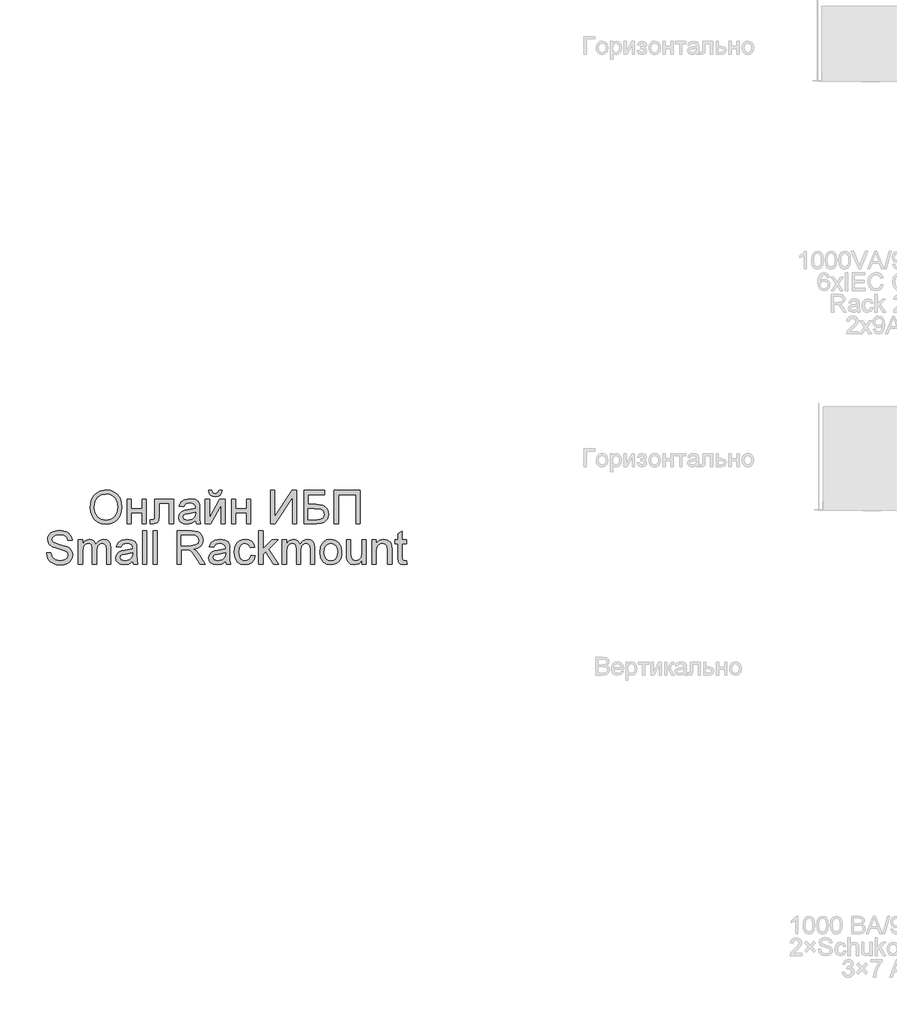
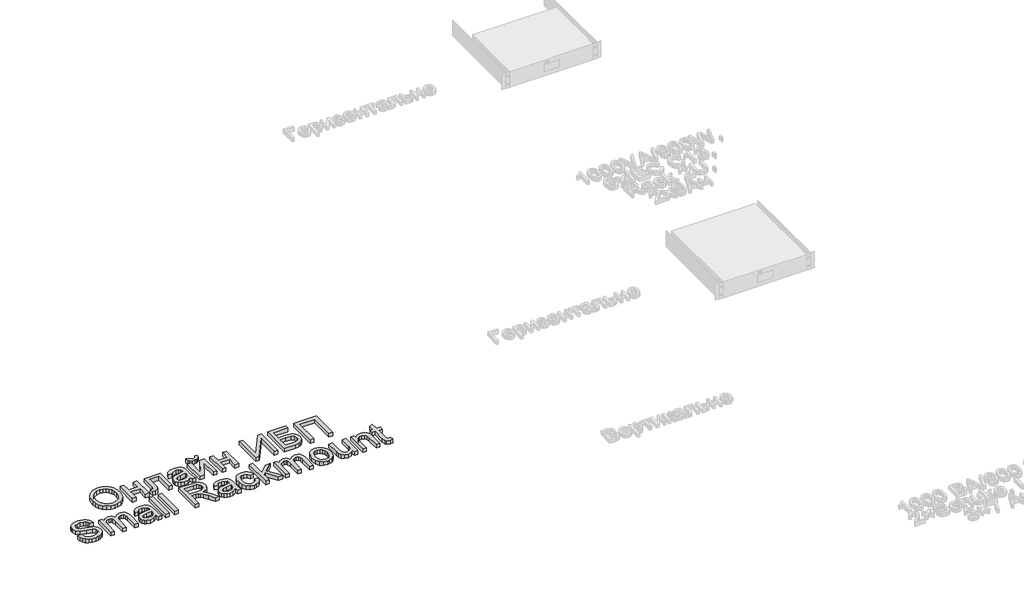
# One storey, part 63 of 74: 1 proxy.
"""IFC4 building model written with IfcOpenShell, lengths in millimetres."""

from ifc_helpers import new_model, si_unit, origin, origin_with_axes, place, context, project, spatial, polyline, outline, extrude, element, save

model = new_model("IFC4")

# Units and contexts
model_context = context("Model", 3, world=origin())
ifc_project = project(units=[si_unit("LENGTHUNIT", "METRE", prefix="MILLI")], contexts=[model_context])

# Site, building, storey
site = spatial("IfcSite", under=ifc_project)
building = spatial("IfcBuilding", under=site)
storey = spatial("IfcBuildingStorey", under=building, Name="Этаж 01", Elevation=0.0)

# Proxy
placement = place(None, origin())
element("IfcBuildingElementProxy", 1, Name="150 мм Arial", ObjectType="150 мм Arial", at=placement, inside=storey, context=model_context, shape_type="SweptSolid", body=[
    extrude(outline(polyline([(-2176.9010237, 1186.0052274), (-2171.8794345, 1219.3261391), (-2165.6024479, 1232.9446707), (-2156.8146668, 1244.5352528), (-2133.812845, 1260.4001639), (-2104.9800937, 1265.6884676), (-2085.2156335, 1263.2052641), (-2067.4929184, 1255.7556537), (-2052.7776386, 1243.8638682), (-2042.0354843, 1228.0541394), (-2035.4687907, 1209.0898226), (-2033.2798928, 1187.7342728), (-2035.5837538, 1166.0936144), (-2042.4953368, 1146.8625831), (-2053.6329642, 1131.0252632), (-2068.6149584, 1119.5657391), (-2086.1859222, 1112.6127694), (-2105.0904583, 1110.2951128), (-2125.1584211, 1112.8564912), (-2142.9823038, 1120.5406264), (-2157.6607954, 1132.653141), (-2168.292585, 1148.499658), (-2174.7489141, 1166.7328094), (-2176.9010237, 1186.0052274)]), holes=[polyline([(-2158.0654656, 1185.8212864), (-2154.2992736, 1162.2492476), (-2143.0006979, 1144.2874091), (-2126.0183453, 1132.9198555), (-2105.2008229, 1129.1306709), (-2084.0797978, 1132.9566437), (-2067.0698541, 1144.4345619), (-2055.8540517, 1162.9482233), (-2052.115451, 1187.8814256), (-2053.7157376, 1204.555677), (-2058.5165977, 1218.9674542), (-2066.3938709, 1230.7534736), (-2077.2233971, 1239.5504518), (-2090.2878065, 1245.027295), (-2104.8697291, 1246.8529094), (-2125.13083, 1243.3350378), (-2142.3569044, 1232.7814231), (-2154.1383253, 1214.0056458), (-2158.0654656, 1185.8212864)])]), origin_with_axes(), (0.0, 0.0, 1.0), 20.0),
    extrude(outline(polyline([(-2009.7354451, 1223.3084617), (-1990.899887, 1223.3084617), (-1990.899887, 1180.9284559), (-1941.4565468, 1180.9284559), (-1941.4565468, 1223.3084617), (-1922.6209887, 1223.3084617), (-1922.6209887, 1112.6495576), (-1941.4565468, 1112.6495576), (-1941.4565468, 1162.0928977), (-1990.899887, 1162.0928977), (-1990.899887, 1112.6495576), (-2009.7354451, 1112.6495576), (-2009.7354451, 1223.3084617)])), origin_with_axes(), (0.0, 0.0, 1.0), 20.0),
    extrude(outline(polyline([(-1884.9498724, 1223.3084617), (-1800.1898607, 1223.3084617), (-1800.1898607, 1112.7599222), (-1819.0254188, 1112.7599222), (-1819.0254188, 1204.4729036), (-1866.1143142, 1204.4729036), (-1866.1143142, 1151.6818372), (-1867.3835071, 1127.3280492), (-1874.3548709, 1117.0457474), (-1890.8359843, 1112.6495576), (-1906.1398753, 1113.6060507), (-1906.1398753, 1131.4851157), (-1897.7153776, 1131.4851157), (-1889.1989094, 1132.643944), (-1885.7960009, 1136.3227639), (-1884.9498724, 1152.748695), (-1884.9498724, 1223.3084617)])), origin_with_axes(), (0.0, 0.0, 1.0), 20.0),
    extrude(outline(polyline([(-1701.3031804, 1126.7762262), (-1719.5685214, 1114.0107209), (-1739.7468489, 1110.2951128), (-1755.4875997, 1112.5299959), (-1767.0988752, 1119.2346453), (-1774.2587785, 1129.4157795), (-1776.645413, 1142.0801172), (-1773.0401694, 1156.979338), (-1763.567208, 1167.7950686), (-1750.3786385, 1173.9754862), (-1734.0814661, 1176.8081775), (-1701.413545, 1183.2829006), (-1701.3031804, 1187.4767554), (-1702.5999644, 1195.882859), (-1706.4903165, 1201.3826948), (-1715.1907257, 1205.4661849), (-1727.3124374, 1206.8273483), (-1746.3687248, 1203.2037107), (-1755.45541, 1190.3462349), (-1774.2909682, 1192.7006797), (-1766.142382, 1211.0947795), (-1749.734845, 1221.8737219), (-1724.8844163, 1225.6629065), (-1702.0573385, 1222.3151803), (-1689.1630745, 1213.9090767), (-1683.3873272, 1201.1251774), (-1682.4676222, 1184.644064), (-1682.4676222, 1161.2099809), (-1681.511129, 1128.4868775), (-1677.7587327, 1112.6495576), (-1696.5942908, 1112.6495576), (-1701.3031804, 1126.7762262)]), holes=[polyline([(-1701.3031804, 1164.4473425), (-1731.6902332, 1158.6715952), (-1747.895435, 1155.6181746), (-1755.2346809, 1150.6517677), (-1757.8098548, 1143.4044924), (-1752.1996544, 1133.2141611), (-1735.7369351, 1129.1306709), (-1716.6806478, 1133.6372254), (-1704.3933891, 1144.5449265), (-1701.413545, 1159.1130535), (-1701.3031804, 1164.4473425)])]), origin_with_axes(), (0.0, 0.0, 1.0), 20.0),
    extrude(outline(polyline([(-1656.5687297, 1223.3084617), (-1637.7331716, 1223.3084617), (-1637.7331716, 1138.916332), (-1591.4536166, 1223.3084617), (-1567.0998285, 1223.3084617), (-1567.0998285, 1112.6495576), (-1585.9353867, 1112.6495576), (-1585.9353867, 1196.5266525), (-1631.9206361, 1112.6495576), (-1656.5687297, 1112.6495576), (-1656.5687297, 1223.3084617)])), origin_with_axes(), (0.0, 0.0, 1.0), 20.0),
    extrude(outline(polyline([(-1595.3531657, 1263.3340228), (-1581.2264971, 1263.3340228), (-1584.2661221, 1251.2720919), (-1590.3683647, 1242.3831432), (-1599.2573134, 1236.9063), (-1610.6570567, 1235.0806856), (-1623.0270888, 1236.8925044), (-1632.6196119, 1242.3279609), (-1639.1771084, 1251.203114), (-1642.4420611, 1263.3340228), (-1628.3153925, 1263.3340228), (-1623.0178918, 1252.7206272), (-1612.3493139, 1249.2073542), (-1600.6506665, 1252.6102626), (-1595.3531657, 1263.3340228)])), origin_with_axes(), (0.0, 0.0, 1.0), 20.0),
    extrude(outline(polyline([(-1538.8464913, 1223.3084617), (-1520.0109331, 1223.3084617), (-1520.0109331, 1180.9284559), (-1470.567593, 1180.9284559), (-1470.567593, 1223.3084617), (-1451.7320348, 1223.3084617), (-1451.7320348, 1112.6495576), (-1470.567593, 1112.6495576), (-1470.567593, 1162.0928977), (-1520.0109331, 1162.0928977), (-1520.0109331, 1112.6495576), (-1538.8464913, 1112.6495576), (-1538.8464913, 1223.3084617)])), origin_with_axes(), (0.0, 0.0, 1.0), 20.0),
    extrude(outline(polyline([(-1362.2631336, 1263.3340228), (-1343.4275755, 1263.3340228), (-1343.4275755, 1143.9931035), (-1264.5536757, 1263.3340228), (-1244.5408951, 1263.3340228), (-1244.5408951, 1112.6495576), (-1263.3764533, 1112.6495576), (-1263.3764533, 1231.659383), (-1342.0664121, 1112.6495576), (-1362.2631336, 1112.6495576), (-1362.2631336, 1263.3340228)])), origin_with_axes(), (0.0, 0.0, 1.0), 20.0),
    extrude(outline(polyline([(-1211.5786684, 1263.3340228), (-1117.4008776, 1263.3340228), (-1117.4008776, 1244.4984646), (-1192.7431102, 1244.4984646), (-1192.7431102, 1199.764014), (-1157.4632269, 1199.764014), (-1126.3771983, 1195.9380413), (-1115.9753349, 1190.4106143), (-1107.8727339, 1181.4802789), (-1102.6580067, 1169.9839665), (-1100.9197642, 1156.7586088), (-1105.8677771, 1135.2926944), (-1120.6382392, 1118.9771279), (-1133.9095821, 1114.2314501), (-1154.0787125, 1112.6495576), (-1211.5786684, 1112.6495576), (-1211.5786684, 1263.3340228)]), holes=[polyline([(-1192.7431102, 1131.4851157), (-1152.3864554, 1131.4851157), (-1138.121831, 1133.0394171), (-1127.9223027, 1137.7023214), (-1121.7970675, 1145.4738286), (-1119.7553224, 1156.3539386), (-1124.4274237, 1171.1060066), (-1137.4320523, 1178.9786813), (-1165.8141482, 1180.9284559), (-1192.7431102, 1180.9284559), (-1192.7431102, 1131.4851157)])]), origin_with_axes(), (0.0, 0.0, 1.0), 20.0),
    extrude(outline(polyline([(-1075.0208718, 1263.3340228), (-957.2986333, 1263.3340228), (-957.2986333, 1112.6495576), (-976.1341915, 1112.6495576), (-976.1341915, 1244.4984646), (-1056.1853136, 1244.4984646), (-1056.1853136, 1112.6495576), (-1075.0208718, 1112.6495576), (-1075.0208718, 1263.3340228)])), origin_with_axes(), (0.0, 0.0, 1.0), 20.0),
    extrude(outline(polyline([(-2373.4971619, 981.4851157), (-2354.6616038, 981.4851157), (-2348.5915509, 962.6311635), (-2333.7659065, 950.7117868), (-2311.177952, 946.1684442), (-2291.4962652, 949.6081408), (-2278.7859423, 959.0627081), (-2274.6104816, 971.6994546), (-2277.7374786, 983.4532844), (-2290.539772, 992.0065408), (-2317.9653748, 999.1986338), (-2347.4879049, 1008.4876542), (-2363.5091658, 1022.5039582), (-2368.7882724, 1041.2291517), (-2367.1557961, 1052.2610131), (-2362.258367, 1062.5479133), (-2354.2247439, 1071.2667166), (-2343.1836855, 1077.594287), (-2315.2614421, 1082.7262408), (-2285.4630005, 1077.3551637), (-2274.0402646, 1070.7240907), (-2265.5973728, 1061.5730261), (-2260.2538868, 1050.4721869), (-2258.1293683, 1037.9917902), (-2276.9649264, 1037.9917902), (-2280.4230172, 1049.2305851), (-2287.6335043, 1057.3423831), (-2298.8998904, 1062.2536078), (-2314.5256781, 1063.8906826), (-2330.5193479, 1062.2720019), (-2341.4914284, 1057.4159595), (-2347.8373928, 1050.2698518), (-2349.9527143, 1041.7809747), (-2348.4535951, 1034.5428965), (-2343.9562377, 1028.7211639), (-2313.2013029, 1018.1997388), (-2279.8711942, 1008.7451716), (-2269.1336384, 1001.9117635), (-2261.6426413, 993.4780688), (-2257.2418529, 983.5360578), (-2255.7749235, 972.1777012), (-2257.4625821, 960.5664258), (-2262.5255581, 949.644929), (-2270.7569177, 940.2455441), (-2281.9497274, 933.2006038), (-2295.4096099, 928.7998155), (-2310.442188, 927.332886), (-2328.8960686, 928.9147786), (-2344.0849964, 933.6604563), (-2356.1837155, 941.5883133), (-2365.3669699, 952.7167437), (-2371.2622788, 966.2731952), (-2373.4971619, 981.4851157)])), origin_with_axes(), (0.0, 0.0, 1.0), 20.0),
    extrude(outline(polyline([(-2229.876031, 929.6873308), (-2229.876031, 1040.3462349), (-2211.0404729, 1040.3462349), (-2211.0404729, 1022.1360762), (-2198.0910266, 1037.0536911), (-2179.6601387, 1042.7006797), (-2169.1846989, 1041.2613414), (-2160.7877923, 1036.9433265), (-2150.4135201, 1020.811701), (-2135.7166344, 1037.228435), (-2117.1569877, 1042.7006797), (-2102.9981294, 1040.4244099), (-2092.5272881, 1033.5956003), (-2086.0571635, 1022.0303101), (-2083.9004553, 1005.5445982), (-2083.9004553, 929.6873308), (-2102.7360135, 929.6873308), (-2102.7360135, 997.4511943), (-2104.483453, 1013.1781496), (-2110.8110233, 1020.9220656), (-2121.5715716, 1023.8651216), (-2131.7756985, 1021.9797263), (-2140.0944301, 1016.3235407), (-2145.6264556, 1006.5102884), (-2147.4704641, 992.1536936), (-2147.4704641, 929.6873308), (-2166.3060223, 929.6873308), (-2166.3060223, 999.5481217), (-2170.6654239, 1017.7950686), (-2176.4181786, 1022.3476083), (-2184.9576394, 1023.8651216), (-2198.900367, 1019.8184196), (-2208.1709933, 1007.9726194), (-2211.0404729, 985.4950295), (-2211.0404729, 929.6873308), (-2229.876031, 929.6873308)])), origin_with_axes(), (0.0, 0.0, 1.0), 20.0),
    extrude(outline(polyline([(-1985.013775, 943.8139994), (-2003.2791161, 931.0484942), (-2023.4574435, 927.332886), (-2039.1981944, 929.5677691), (-2050.8094699, 936.2724185), (-2057.9693732, 946.4535527), (-2060.3560077, 959.1178904), (-2056.7507641, 974.0171112), (-2047.2778027, 984.8328419), (-2034.0892332, 991.0132594), (-2017.7920608, 993.8459507), (-1985.1241396, 1000.3206739), (-1985.013775, 1004.5145286), (-1986.3105591, 1012.9206322), (-1990.2009112, 1018.420468), (-1998.9013204, 1022.5039582), (-2011.0230321, 1023.8651216), (-2030.0793194, 1020.2414839), (-2039.1660047, 1007.3840082), (-2058.0015629, 1009.7384529), (-2049.8529767, 1028.1325527), (-2033.4454397, 1038.9114952), (-2008.5950109, 1042.7006797), (-1985.7679331, 1039.3529536), (-1972.8736692, 1030.94685), (-1967.0979219, 1018.1629506), (-1966.1782169, 1001.6818372), (-1966.1782169, 978.2477542), (-1965.2217237, 945.5246507), (-1961.4693273, 929.6873308), (-1980.3048855, 929.6873308), (-1985.013775, 943.8139994)]), holes=[polyline([(-1985.013775, 981.4851157), (-2015.4008278, 975.7093684), (-2031.6060297, 972.6559478), (-2038.9452755, 967.6895409), (-2041.5204495, 960.4422656), (-2035.9102491, 950.2519343), (-2019.4475298, 946.1684442), (-2000.3912424, 950.6749986), (-1988.1039838, 961.5826998), (-1985.1241396, 976.1508268), (-1985.013775, 981.4851157)])]), origin_with_axes(), (0.0, 0.0, 1.0), 20.0),
    extrude(outline(polyline([(-1940.2793244, 929.6873308), (-1940.2793244, 1080.371796), (-1921.4437663, 1080.371796), (-1921.4437663, 929.6873308), (-1940.2793244, 929.6873308)])), origin_with_axes(), (0.0, 0.0, 1.0), 20.0),
    extrude(outline(polyline([(-1893.190429, 929.6873308), (-1893.190429, 1080.371796), (-1874.3548709, 1080.371796), (-1874.3548709, 929.6873308), (-1893.190429, 929.6873308)])), origin_with_axes(), (0.0, 0.0, 1.0), 20.0),
    extrude(outline(polyline([(-1784.8859697, 929.6873308), (-1784.8859697, 1080.371796), (-1719.9547975, 1080.371796), (-1689.806868, 1076.3067), (-1680.5270447, 1070.6781054), (-1673.3257546, 1061.922514), (-1668.7042371, 1051.0653966), (-1667.1637312, 1039.1322244), (-1669.7159125, 1024.2881859), (-1677.3724566, 1011.9825331), (-1690.3632895, 1002.9602272), (-1708.9183377, 997.9662291), (-1698.2129716, 989.9096134), (-1682.9458688, 970.5222323), (-1657.8195285, 929.6873308), (-1679.7085072, 929.6873308), (-1699.3166176, 960.9205122), (-1713.4800744, 981.5954803), (-1723.4312824, 991.3627473), (-1732.389209, 994.9495967), (-1743.3153042, 995.6117843), (-1766.0504115, 995.6117843), (-1766.0504115, 929.6873308), (-1784.8859697, 929.6873308)]), holes=[polyline([(-1766.0504115, 1014.4473425), (-1723.8911349, 1014.4473425), (-1702.3884322, 1017.1144869), (-1690.17475, 1025.6493492), (-1685.9992894, 1038.4332486), (-1687.9904507, 1047.6211014), (-1693.9639346, 1055.0247265), (-1704.2416378, 1059.90836), (-1719.1454571, 1061.5362379), (-1766.0504115, 1061.5362379), (-1766.0504115, 1014.4473425)])]), origin_with_axes(), (0.0, 0.0, 1.0), 20.0),
    extrude(outline(polyline([(-1565.9226061, 943.8139994), (-1584.1879472, 931.0484942), (-1604.3662746, 927.332886), (-1620.1070255, 929.5677691), (-1631.718301, 936.2724185), (-1638.8782043, 946.4535527), (-1641.2648387, 959.1178904), (-1637.6595952, 974.0171112), (-1628.1866338, 984.8328419), (-1614.9980643, 991.0132594), (-1598.7008919, 993.8459507), (-1566.0329707, 1000.3206739), (-1565.9226061, 1004.5145286), (-1567.2193902, 1012.9206322), (-1571.1097423, 1018.420468), (-1579.8101515, 1022.5039582), (-1591.9318632, 1023.8651216), (-1610.9881505, 1020.2414839), (-1620.0748358, 1007.3840082), (-1638.910394, 1009.7384529), (-1630.7618078, 1028.1325527), (-1614.3542708, 1038.9114952), (-1589.503842, 1042.7006797), (-1566.6767642, 1039.3529536), (-1553.7825003, 1030.94685), (-1548.006753, 1018.1629506), (-1547.087048, 1001.6818372), (-1547.087048, 978.2477542), (-1546.1305548, 945.5246507), (-1542.3781584, 929.6873308), (-1561.2137166, 929.6873308), (-1565.9226061, 943.8139994)]), holes=[polyline([(-1565.9226061, 981.4851157), (-1596.3096589, 975.7093684), (-1612.5148608, 972.6559478), (-1619.8541066, 967.6895409), (-1622.4292806, 960.4422656), (-1616.8190802, 950.2519343), (-1600.3563609, 946.1684442), (-1581.3000735, 950.6749986), (-1569.0128149, 961.5826998), (-1566.0329707, 976.1508268), (-1565.9226061, 981.4851157)])]), origin_with_axes(), (0.0, 0.0, 1.0), 20.0),
    extrude(outline(polyline([(-1450.5548124, 969.7128919), (-1431.7192543, 967.3584471), (-1436.9707698, 950.6060207), (-1446.8392043, 937.9462816), (-1460.3956558, 929.9862349), (-1476.7112223, 927.332886), (-1496.7469955, 931.0346986), (-1512.4141699, 942.1401363), (-1522.5263263, 960.1617556), (-1525.8970451, 984.6121127), (-1524.4577068, 1001.3737361), (-1520.1396918, 1015.9004764), (-1512.8740224, 1027.6313135), (-1502.5917207, 1036.0052274), (-1490.2906665, 1041.0268166), (-1476.9687397, 1042.7006797), (-1461.0532449, 1040.4014172), (-1448.3291264, 1033.5036298), (-1439.2010544, 1022.3751995), (-1434.0736991, 1007.3840082), (-1452.9092572, 1005.0295634), (-1461.6464546, 1019.1378379), (-1476.8215869, 1023.8651216), (-1488.9938824, 1021.5382679), (-1498.6553833, 1014.5577071), (-1504.959961, 1002.5463599), (-1507.0614869, 985.1271475), (-1505.0059463, 967.4734102), (-1498.8393243, 955.4206764), (-1489.3525674, 948.4815022), (-1477.3366217, 946.1684442), (-1467.5831503, 947.612381), (-1459.5863154, 951.9441915), (-1453.7691814, 959.2742403), (-1450.5548124, 969.7128919)])), origin_with_axes(), (0.0, 0.0, 1.0), 20.0),
    extrude(outline(polyline([(-1415.2381409, 929.6873308), (-1415.2381409, 1080.371796), (-1396.4025828, 1080.371796), (-1396.4025828, 999.4009689), (-1354.1697297, 1040.3462349), (-1328.1236845, 1040.3462349), (-1370.8715723, 998.8859341), (-1325.7692397, 929.6873308), (-1347.768583, 929.6873308), (-1384.3728415, 985.7893351), (-1396.4025828, 974.1274758), (-1396.4025828, 929.6873308), (-1415.2381409, 929.6873308)])), origin_with_axes(), (0.0, 0.0, 1.0), 20.0),
    extrude(outline(polyline([(-1309.2881263, 929.6873308), (-1309.2881263, 1040.3462349), (-1290.4525681, 1040.3462349), (-1290.4525681, 1022.1360762), (-1277.5031219, 1037.0536911), (-1259.072234, 1042.7006797), (-1248.5967941, 1041.2613414), (-1240.1998876, 1036.9433265), (-1229.8256153, 1020.811701), (-1215.1287296, 1037.228435), (-1196.569083, 1042.7006797), (-1182.4102247, 1040.4244099), (-1171.9393834, 1033.5956003), (-1165.4692588, 1022.0303101), (-1163.3125506, 1005.5445982), (-1163.3125506, 929.6873308), (-1182.1481088, 929.6873308), (-1182.1481088, 997.4511943), (-1183.8955482, 1013.1781496), (-1190.2231186, 1020.9220656), (-1200.9836669, 1023.8651216), (-1211.1877938, 1021.9797263), (-1219.5065254, 1016.3235407), (-1225.0385509, 1006.5102884), (-1226.8825594, 992.1536936), (-1226.8825594, 929.6873308), (-1245.7181175, 929.6873308), (-1245.7181175, 999.5481217), (-1250.0775192, 1017.7950686), (-1255.8302739, 1022.3476083), (-1264.3697347, 1023.8651216), (-1278.3124623, 1019.8184196), (-1287.5830886, 1007.9726194), (-1290.4525681, 985.4950295), (-1290.4525681, 929.6873308), (-1309.2881263, 929.6873308)])), origin_with_axes(), (0.0, 0.0, 1.0), 20.0),
    extrude(outline(polyline([(-1139.7681029, 985.0167829), (-1135.6938098, 1011.6974246), (-1123.4709305, 1030.4502093), (-1108.3693746, 1039.6380621), (-1090.2879746, 1042.7006797), (-1070.5005218, 1038.971276), (-1054.6953915, 1027.7830648), (-1044.3349148, 1010.018963), (-1040.8814226, 986.5618872), (-1042.4081329, 967.533191), (-1046.9882637, 953.0478375), (-1054.4884579, 942.1999172), (-1064.7753582, 934.0835206), (-1076.993639, 929.0205447), (-1090.2879746, 927.332886), (-1110.3145507, 931.0484942), (-1126.1012868, 942.1953186), (-1136.3513989, 960.331901), (-1139.7681029, 985.0167829)]), holes=[polyline([(-1120.9325448, 985.0535711), (-1118.7528439, 968.0068391), (-1112.2137415, 955.8621347), (-1102.3728981, 948.5918668), (-1090.2879746, 946.1684442), (-1078.2582333, 948.6056624), (-1068.4357841, 955.917317), (-1061.8966816, 968.2229698), (-1059.7169808, 985.6421823), (-1061.9104772, 1002.1922735), (-1068.4909664, 1014.171431), (-1078.3272112, 1021.4416989), (-1090.2879746, 1023.8651216), (-1102.3728981, 1021.450896), (-1112.2137415, 1014.2082192), (-1118.7528439, 1002.091106), (-1120.9325448, 985.0535711)])]), origin_with_axes(), (0.0, 0.0, 1.0), 20.0),
    extrude(outline(polyline([(-949.0580766, 929.6873308), (-949.0580766, 948.7068299), (-963.8101446, 932.676372), (-983.050373, 927.332886), (-1000.763891, 931.0852824), (-1012.9775733, 940.5030614), (-1018.5877737, 954.3722127), (-1019.6914197, 971.8833956), (-1019.6914197, 1040.3462349), (-1000.8558615, 1040.3462349), (-1000.8558615, 980.7493517), (-999.7154274, 961.5459116), (-992.265817, 950.2703284), (-978.2311188, 946.1684442), (-962.5041635, 950.3622989), (-952.1114972, 961.7850349), (-949.0580766, 982.7727027), (-949.0580766, 1040.3462349), (-930.2225185, 1040.3462349), (-930.2225185, 929.6873308), (-949.0580766, 929.6873308)])), origin_with_axes(), (0.0, 0.0, 1.0), 20.0),
    extrude(outline(polyline([(-904.323626, 929.6873308), (-904.323626, 1040.3462349), (-885.4880679, 1040.3462349), (-885.4880679, 1024.8951911), (-871.0854877, 1038.2493076), (-851.4221951, 1042.7006797), (-833.6351006, 1039.1138303), (-821.4949948, 1029.6960512), (-815.8480062, 1015.8452941), (-814.8547248, 997.6351353), (-814.8547248, 929.6873308), (-833.6902829, 929.6873308), (-833.6902829, 995.0967495), (-835.8607867, 1011.7618039), (-843.5311263, 1020.5725777), (-856.4621784, 1023.8651216), (-867.4940398, 1022.0165145), (-876.8980233, 1016.4706935), (-883.3405567, 1005.7561303), (-885.4880679, 988.4012972), (-885.4880679, 929.6873308), (-904.323626, 929.6873308)])), origin_with_axes(), (0.0, 0.0, 1.0), 20.0),
    extrude(outline(polyline([(-748.9302712, 945.395892), (-746.5758265, 929.1355078), (-760.6657069, 927.332886), (-776.4478445, 930.459883), (-784.3205192, 938.6636515), (-786.6013876, 960.0375954), (-786.6013876, 1021.5106768), (-800.7280562, 1021.5106768), (-800.7280562, 1040.3462349), (-786.6013876, 1040.3462349), (-786.6013876, 1067.2384088), (-767.7658294, 1078.3116568), (-767.7658294, 1040.3462349), (-748.9302712, 1040.3462349), (-748.9302712, 1021.5106768), (-767.7658294, 1021.5106768), (-767.7658294, 960.5894184), (-766.772548, 950.8773337), (-763.5535806, 947.4376371), (-757.1340397, 946.1684442), (-748.9302712, 945.395892)])), origin_with_axes(), (0.0, 0.0, 1.0), 20.0),
])

save(model, "model.ifc")
